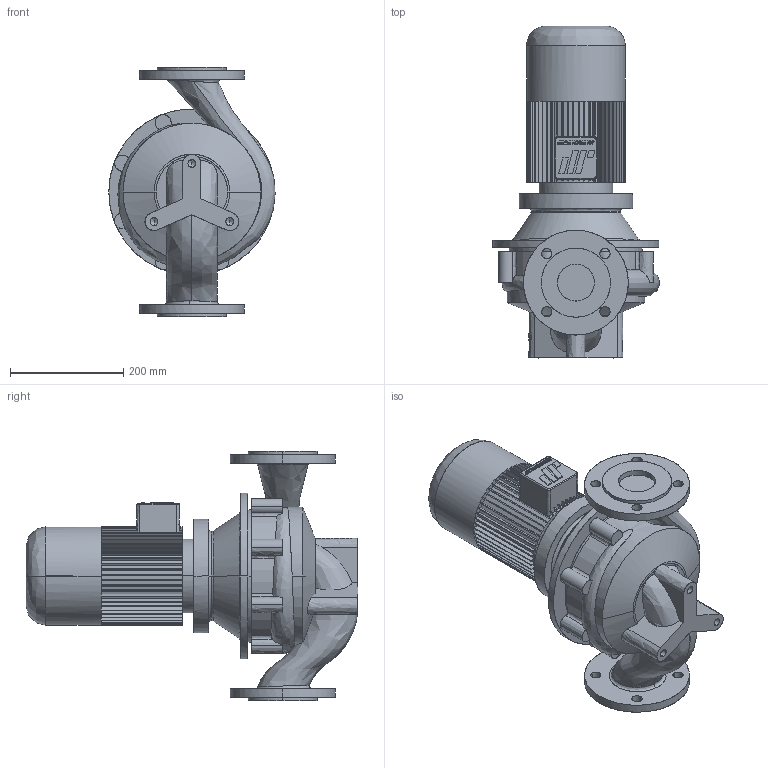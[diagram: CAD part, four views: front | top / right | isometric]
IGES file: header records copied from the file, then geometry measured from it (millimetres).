
Start section: CombiLine
Global section: file name: CLB_65-200_IEC90S_ND10.igs; native system:  By UGS Corp.; preprocessor: XPlus GENERIC/IGES 3.0; author: Stageplaats; organization: Johnson Pump Water B.V.; date: 20070716.131240; units: millimetre
Bounding box: 293.39 x 585.5 x 440 mm (x, y, z)
Surface area: 841816.5 mm2 (no closed solid volume)
Topology: 0 solids, 0 shells, 544 faces, 3306 edges, 3300 vertices
Faces by surface type: bspline 544
